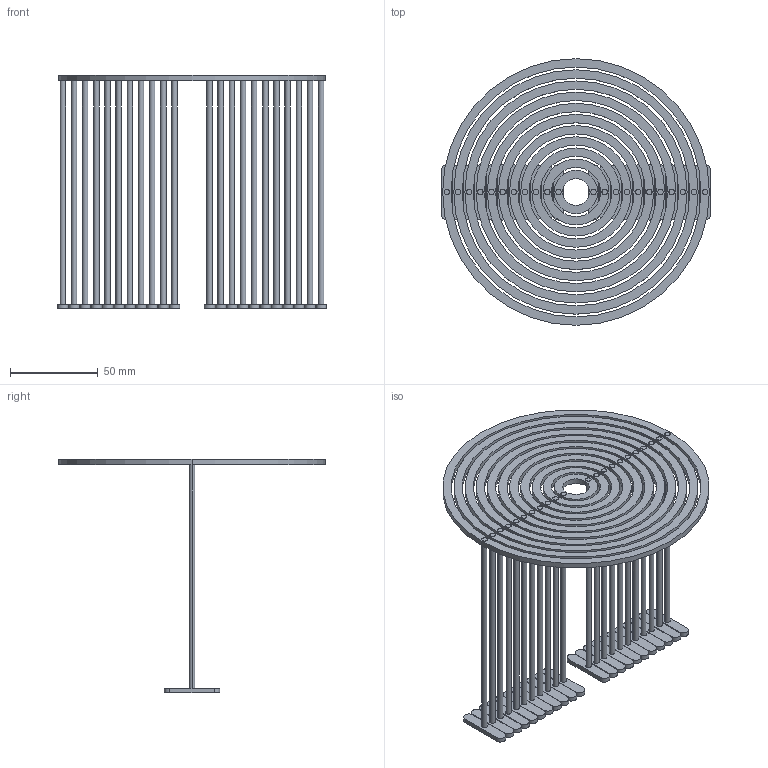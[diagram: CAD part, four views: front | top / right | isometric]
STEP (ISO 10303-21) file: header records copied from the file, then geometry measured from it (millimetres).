
FILE_DESCRIPTION (( 'STEP AP214' ), '1' );
FILE_NAME ('ring cnc.STEP', '2017-08-21T18:29:03', ( 'John' ), ( 'None' ), 'SwSTEP 2.0', 'SolidWorks 2007', '' );
FILE_SCHEMA (( 'AUTOMOTIVE_DESIGN' ));
Length unit declared in the file: inch
Products named in the file (12): ring_11; ring_10; ring_5; ring_4; ring_9; ring_8; ring_7; ring_6; ring_3; ring_1; ring cnc; ring_2
Assembly tree (11 placements, depth 2):
  ring cnc
    ring_4
    ring_9
    ring_10
    ring_11
    ring_7
    ring_3
    ring_2
    ring_8
    ring_1
    ring_5
    ring_6
Bounding box: 153.1 x 151.76 x 132.72 mm (x, y, z)
Volume: 76033.4 mm3; surface area: 85341.6 mm2
Topology: 11 solids, 11 shells, 308 faces, 660 edges, 440 vertices
Faces by surface type: cylinder 176, plane 132
Entity records: 8971 total; most frequent: DIRECTION 1656, CARTESIAN_POINT 1422, ORIENTED_EDGE 1320, AXIS2_PLACEMENT_3D 674, EDGE_CURVE 660, VERTEX_POINT 440, EDGE_LOOP 396, CIRCLE 352
